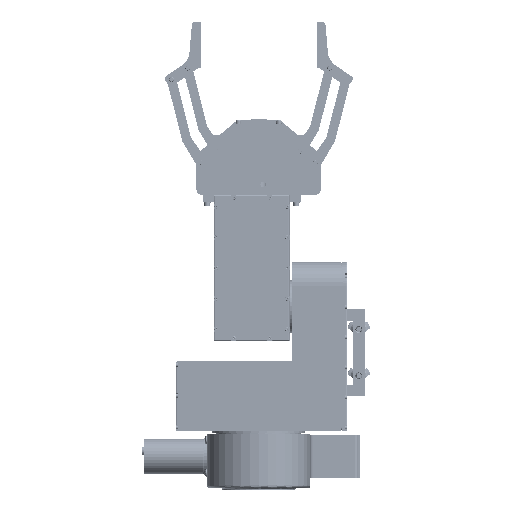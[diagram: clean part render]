
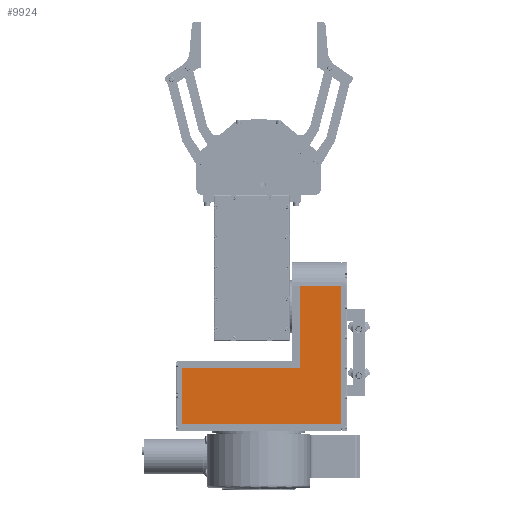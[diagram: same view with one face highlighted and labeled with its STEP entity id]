
A CAD part, front view. The second image highlights one B-rep face of the part: STEP entity #9924.
In plain terms, the highlighted planar face has unit normal (0, -1, 0).
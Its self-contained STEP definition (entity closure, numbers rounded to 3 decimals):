
#2034 = CARTESIAN_POINT ( 'NONE',  ( 238., 0., -284. ) ) ;
#9924 = ADVANCED_FACE ( 'NONE', ( #537053 ), #448538, .T. ) ;
#21231 = ORIENTED_EDGE ( 'NONE', *, *, #193332, .F. ) ;
#21948 = DIRECTION ( 'NONE',  ( -1., 0., 0. ) ) ;
#25129 = VERTEX_POINT ( 'NONE', #420857 ) ;
#32275 = DIRECTION ( 'NONE',  ( 0., 0., -1. ) ) ;
#64599 = EDGE_CURVE ( 'NONE', #77901, #138287, #471028, .T. ) ;
#77901 = VERTEX_POINT ( 'NONE', #522962 ) ;
#90500 = VERTEX_POINT ( 'NONE', #350076 ) ;
#118351 = VERTEX_POINT ( 'NONE', #487658 ) ;
#138287 = VERTEX_POINT ( 'NONE', #449380 ) ;
#141705 = EDGE_LOOP ( 'NONE', ( #178831, #238712, #405255, #147203, #322060, #21231 ) ) ;
#144785 = VECTOR ( 'NONE', #294123, 1000. ) ;
#147203 = ORIENTED_EDGE ( 'NONE', *, *, #309866, .T. ) ;
#178831 = ORIENTED_EDGE ( 'NONE', *, *, #64599, .F. ) ;
#193332 = EDGE_CURVE ( 'NONE', #138287, #118351, #257683, .T. ) ;
#238712 = ORIENTED_EDGE ( 'NONE', *, *, #276862, .F. ) ;
#240349 = CARTESIAN_POINT ( 'NONE',  ( 96., 0., 0. ) ) ;
#245016 = CARTESIAN_POINT ( 'NONE',  ( 238., 0., -209. ) ) ;
#257683 = LINE ( 'NONE', #515906, #283843 ) ;
#262041 = VECTOR ( 'NONE', #466034, 1000. ) ;
#272045 = CARTESIAN_POINT ( 'NONE',  ( 238., 0., -280. ) ) ;
#276862 = EDGE_CURVE ( 'NONE', #90500, #77901, #429833, .T. ) ;
#282420 = DIRECTION ( 'NONE',  ( 0., -1., 0. ) ) ;
#283843 = VECTOR ( 'NONE', #512352, 1000. ) ;
#294123 = DIRECTION ( 'NONE',  ( 0., 0., 1. ) ) ;
#304258 = VECTOR ( 'NONE', #364299, 1000. ) ;
#309866 = EDGE_CURVE ( 'NONE', #391861, #25129, #365641, .T. ) ;
#322060 = ORIENTED_EDGE ( 'NONE', *, *, #511999, .T. ) ;
#328634 = EDGE_CURVE ( 'NONE', #90500, #391861, #366812, .T. ) ;
#350076 = CARTESIAN_POINT ( 'NONE',  ( 238., 0., -280. ) ) ;
#356064 = LINE ( 'NONE', #240349, #304258 ) ;
#364299 = DIRECTION ( 'NONE',  ( 0., 0., 1. ) ) ;
#365641 = LINE ( 'NONE', #374925, #437566 ) ;
#366812 = LINE ( 'NONE', #2034, #144785 ) ;
#374925 = CARTESIAN_POINT ( 'NONE',  ( 280., 0., -209. ) ) ;
#387295 = CARTESIAN_POINT ( 'NONE',  ( 0., 0., -284. ) ) ;
#390436 = VECTOR ( 'NONE', #21948, 1000. ) ;
#391861 = VERTEX_POINT ( 'NONE', #245016 ) ;
#405255 = ORIENTED_EDGE ( 'NONE', *, *, #328634, .T. ) ;
#419357 = DIRECTION ( 'NONE',  ( -1., 0., 0. ) ) ;
#420857 = CARTESIAN_POINT ( 'NONE',  ( 96., 0., -209. ) ) ;
#429833 = LINE ( 'NONE', #272045, #390436 ) ;
#437566 = VECTOR ( 'NONE', #419357, 1000. ) ;
#448538 = PLANE ( 'NONE',  #539511 ) ;
#449380 = CARTESIAN_POINT ( 'NONE',  ( 0., 0., -4. ) ) ;
#466034 = DIRECTION ( 'NONE',  ( 0., 0., 1. ) ) ;
#471028 = LINE ( 'NONE', #387295, #262041 ) ;
#487658 = CARTESIAN_POINT ( 'NONE',  ( 96., 0., -4. ) ) ;
#490354 = CARTESIAN_POINT ( 'NONE',  ( 0., 0., -284. ) ) ;
#511999 = EDGE_CURVE ( 'NONE', #25129, #118351, #356064, .T. ) ;
#512352 = DIRECTION ( 'NONE',  ( 1., 0., 0. ) ) ;
#515906 = CARTESIAN_POINT ( 'NONE',  ( -12., 0., -4. ) ) ;
#522962 = CARTESIAN_POINT ( 'NONE',  ( 0., 0., -280. ) ) ;
#537053 = FACE_OUTER_BOUND ( 'NONE', #141705, .T. ) ;
#539511 = AXIS2_PLACEMENT_3D ( 'NONE', #490354, #282420, #32275 ) ;
